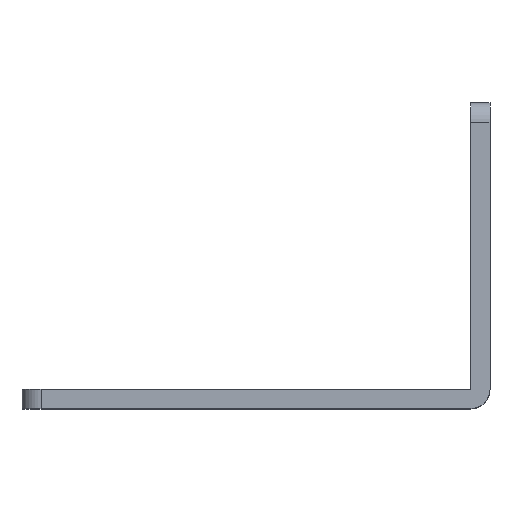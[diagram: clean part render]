
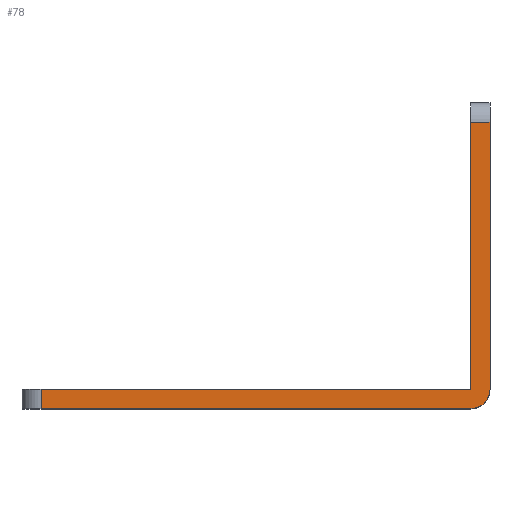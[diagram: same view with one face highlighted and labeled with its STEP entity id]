
A CAD part, top view. The second image highlights one B-rep face of the part: STEP entity #78.
In plain terms, the highlighted planar face has unit normal (0, 0, 1).
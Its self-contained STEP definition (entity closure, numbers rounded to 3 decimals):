
#54 = DIRECTION ( 'NONE',  ( -1., 0., 0. ) ) ;
#78 = ADVANCED_FACE ( 'NONE', ( #1049 ), #1055, .F. ) ;
#113 = CIRCLE ( 'NONE', #1167, 2. ) ;
#145 = EDGE_CURVE ( 'NONE', #1078, #1258, #311, .T. ) ;
#209 = CARTESIAN_POINT ( 'NONE',  ( -47., 2., 16. ) ) ;
#225 = CARTESIAN_POINT ( 'NONE',  ( -2., 2., 16. ) ) ;
#242 = VERTEX_POINT ( 'NONE', #263 ) ;
#263 = CARTESIAN_POINT ( 'NONE',  ( 0., 2., 16. ) ) ;
#306 = DIRECTION ( 'NONE',  ( 1., 0., 0. ) ) ;
#311 = LINE ( 'NONE', #209, #418 ) ;
#312 = LINE ( 'NONE', #909, #516 ) ;
#342 = VECTOR ( 'NONE', #412, 1000. ) ;
#345 = ORIENTED_EDGE ( 'NONE', *, *, #929, .F. ) ;
#349 = VERTEX_POINT ( 'NONE', #527 ) ;
#353 = EDGE_CURVE ( 'NONE', #862, #242, #384, .T. ) ;
#384 = LINE ( 'NONE', #1101, #1023 ) ;
#400 = CARTESIAN_POINT ( 'NONE',  ( -2., 0., 16. ) ) ;
#412 = DIRECTION ( 'NONE',  ( 0., -1., 0. ) ) ;
#418 = VECTOR ( 'NONE', #700, 1000. ) ;
#437 = DIRECTION ( 'NONE',  ( -1., 0., 0. ) ) ;
#516 = VECTOR ( 'NONE', #890, 1000. ) ;
#527 = CARTESIAN_POINT ( 'NONE',  ( -2., 30., 16. ) ) ;
#533 = DIRECTION ( 'NONE',  ( 1., 0., 0. ) ) ;
#639 = CARTESIAN_POINT ( 'NONE',  ( 0., 30., 16. ) ) ;
#640 = ORIENTED_EDGE ( 'NONE', *, *, #1425, .T. ) ;
#657 = LINE ( 'NONE', #876, #1441 ) ;
#688 = DIRECTION ( 'NONE',  ( 0., 0., -1. ) ) ;
#700 = DIRECTION ( 'NONE',  ( 0., -1., 0. ) ) ;
#719 = CARTESIAN_POINT ( 'NONE',  ( -2., 2., 16. ) ) ;
#735 = CARTESIAN_POINT ( 'NONE',  ( -47., 2., 16. ) ) ;
#779 = ORIENTED_EDGE ( 'NONE', *, *, #783, .T. ) ;
#783 = EDGE_CURVE ( 'NONE', #902, #242, #113, .T. ) ;
#841 = VECTOR ( 'NONE', #533, 1000. ) ;
#862 = VERTEX_POINT ( 'NONE', #639 ) ;
#876 = CARTESIAN_POINT ( 'NONE',  ( -2., 0., 16. ) ) ;
#890 = DIRECTION ( 'NONE',  ( 1., 0., 0. ) ) ;
#898 = DIRECTION ( 'NONE',  ( 0., -1., 0. ) ) ;
#902 = VERTEX_POINT ( 'NONE', #400 ) ;
#909 = CARTESIAN_POINT ( 'NONE',  ( -2., 30., 16. ) ) ;
#929 = EDGE_CURVE ( 'NONE', #1078, #1514, #1384, .T. ) ;
#1023 = VECTOR ( 'NONE', #898, 1000. ) ;
#1044 = ORIENTED_EDGE ( 'NONE', *, *, #1180, .F. ) ;
#1049 = FACE_OUTER_BOUND ( 'NONE', #1062, .T. ) ;
#1055 = PLANE ( 'NONE',  #1171 ) ;
#1057 = ORIENTED_EDGE ( 'NONE', *, *, #353, .F. ) ;
#1062 = EDGE_LOOP ( 'NONE', ( #640, #779, #1057, #1044, #1232, #345, #1327 ) ) ;
#1078 = VERTEX_POINT ( 'NONE', #735 ) ;
#1101 = CARTESIAN_POINT ( 'NONE',  ( 0., 2., 16. ) ) ;
#1135 = CARTESIAN_POINT ( 'NONE',  ( -47., 0., 16. ) ) ;
#1167 = AXIS2_PLACEMENT_3D ( 'NONE', #719, #1231, #54 ) ;
#1171 = AXIS2_PLACEMENT_3D ( 'NONE', #225, #688, #437 ) ;
#1180 = EDGE_CURVE ( 'NONE', #349, #862, #312, .T. ) ;
#1231 = DIRECTION ( 'NONE',  ( 0., 0., 1. ) ) ;
#1232 = ORIENTED_EDGE ( 'NONE', *, *, #1500, .T. ) ;
#1258 = VERTEX_POINT ( 'NONE', #1135 ) ;
#1277 = LINE ( 'NONE', #1506, #342 ) ;
#1327 = ORIENTED_EDGE ( 'NONE', *, *, #145, .T. ) ;
#1357 = CARTESIAN_POINT ( 'NONE',  ( -2., 2., 16. ) ) ;
#1384 = LINE ( 'NONE', #1400, #841 ) ;
#1400 = CARTESIAN_POINT ( 'NONE',  ( 0., 2., 16. ) ) ;
#1425 = EDGE_CURVE ( 'NONE', #1258, #902, #657, .T. ) ;
#1441 = VECTOR ( 'NONE', #306, 1000. ) ;
#1500 = EDGE_CURVE ( 'NONE', #349, #1514, #1277, .T. ) ;
#1506 = CARTESIAN_POINT ( 'NONE',  ( -2., 30., 16. ) ) ;
#1514 = VERTEX_POINT ( 'NONE', #1357 ) ;
